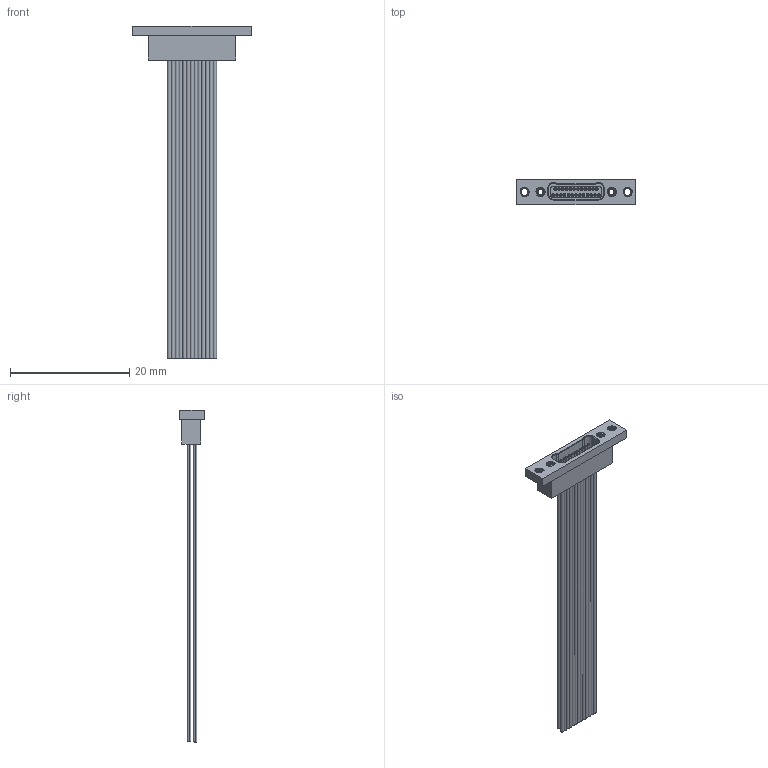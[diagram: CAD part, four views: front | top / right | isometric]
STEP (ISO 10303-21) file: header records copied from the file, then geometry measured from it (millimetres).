
FILE_DESCRIPTION (( 'STEP AP214' ), '1' );
FILE_NAME ('A29600-025 REV F.STEP', '2021-02-26T16:36:59', ( '' ), ( '' ), 'SwSTEP 2.0', 'SolidWorks 2019', '' );
FILE_SCHEMA (( 'AUTOMOTIVE_DESIGN' ));
Length unit declared in the file: inch
Products named in the file (1): A29600-025 REV F
Bounding box: 19.94 x 4.2 x 55.66 mm (x, y, z)
Volume: 607.4 mm3; surface area: 3194.9 mm2
Topology: 1 solids, 26 shells, 816 faces, 1855 edges, 1182 vertices
Faces by surface type: cylinder 368, plane 270, torus 100, bspline 60, cone 18
Entity records: 40057 total; most frequent: CARTESIAN_POINT 10996, DIRECTION 3945, ORIENTED_EDGE 3710, EDGE_CURVE 1855, AXIS2_PLACEMENT_3D 1577, VERTEX_POINT 1182, EDGE_LOOP 965, CIRCLE 820
